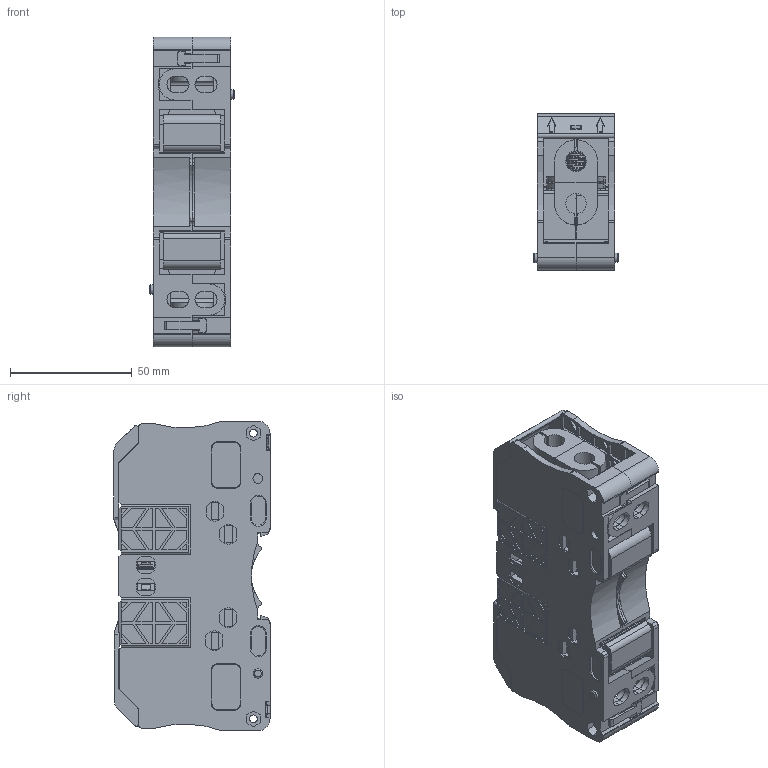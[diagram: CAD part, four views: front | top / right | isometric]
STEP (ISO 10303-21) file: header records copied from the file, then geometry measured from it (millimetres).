
FILE_DESCRIPTION(('STEP AP203'), '1');
FILE_NAME('DBK70DS', '2022-06-09T08:37:49', ('admin'), (''), 'C3D Converter', 'C3D Toolkit', '');
FILE_SCHEMA(('CONFIG_CONTROL_DESIGN'));
Length unit declared in the file: millimetre
Products named in the file (7): DBK70DS; DAODIANPIAN68433; M8-20-LUOSHUAN79408
Assembly tree (13 placements, depth 3):
  DBK70DS
    DBK70DS  x2
    DBK70DS
      DAODIANPIAN68433
      M8-20-LUOSHUAN79408  x2
    DBK70DS  x4
    DBK70DS  x3
Bounding box: 34.8 x 64 x 127 mm (x, y, z)
Volume: 108033.9 mm3; surface area: 103088.5 mm2
Topology: 14 solids, 34 shells, 3767 faces, 9991 edges, 6550 vertices
Faces by surface type: plane 2710, cylinder 883, cone 104, bspline 36, torus 34
Full cylindrical faces by diameter (mm): 1.8 x2, 2 x4, 2.5 x6, 2.6 x4, 3.2 x4, 3.8 x8, 4 x11, 4.6 x2, 4.8 x2, 7.4 x22, 8 x2, 11.5 x4, 14 x2
Entity records: 94398 total; most frequent: CARTESIAN_POINT 34014, ORIENTED_EDGE 9538, DIRECTION 9079, EDGE_CURVE 4769, LINE 3665, VECTOR 3665, VERTEX_POINT 3150, AXIS2_PLACEMENT_3D 2707
